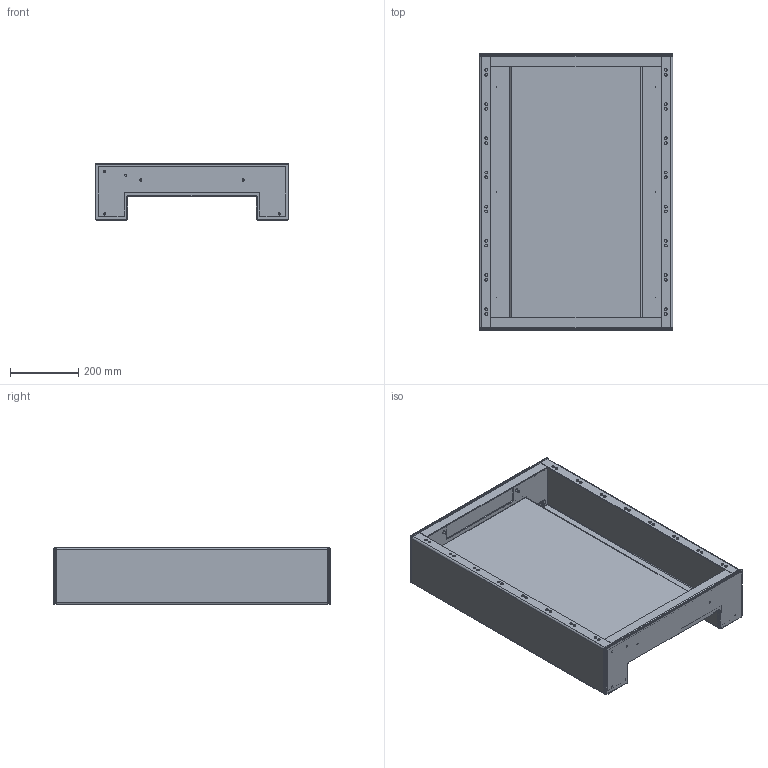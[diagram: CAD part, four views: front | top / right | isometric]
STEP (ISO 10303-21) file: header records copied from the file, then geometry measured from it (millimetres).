
FILE_DESCRIPTION (( 'STEP AP203' ), '1' );
FILE_NAME ('p2bt86.STEP', '2016-06-09T20:52:56', ( '' ), ( '' ), 'SwSTEP 2.0', 'SolidWorks 2014', '' );
FILE_SCHEMA (( 'CONFIG_CONTROL_DESIGN' ));
Length unit declared in the file: inch
Products named in the file (11): 99401225_Config-Drawing; 89139373; 89139400; 89139356; 89139328_BBD; 89139366; p2bt86; 99411248; 89139365; 89139342; 89139374
Assembly tree (19 placements, depth 5):
  p2bt86
    89139328_BBD
      89139342
        89139356
        89139365  x2
          89139366
          99411248
      89139373  x2
        89139374
        99401225_Config-Drawing
      89139400  x2
Bounding box: 567.23 x 811.02 x 167.03 mm (x, y, z)
Volume: 3582734.2 mm3; surface area: 2333636 mm2
Topology: 23 solids, 23 shells, 574 faces, 1344 edges, 866 vertices
Faces by surface type: plane 252, cylinder 222, sphere 48, cone 32, torus 20
Entity records: 9739 total; most frequent: DIRECTION 1544, CARTESIAN_POINT 1394, ORIENTED_EDGE 1340, EDGE_CURVE 670, AXIS2_PLACEMENT_3D 576, VERTEX_POINT 426, VECTOR 392, LINE 392
